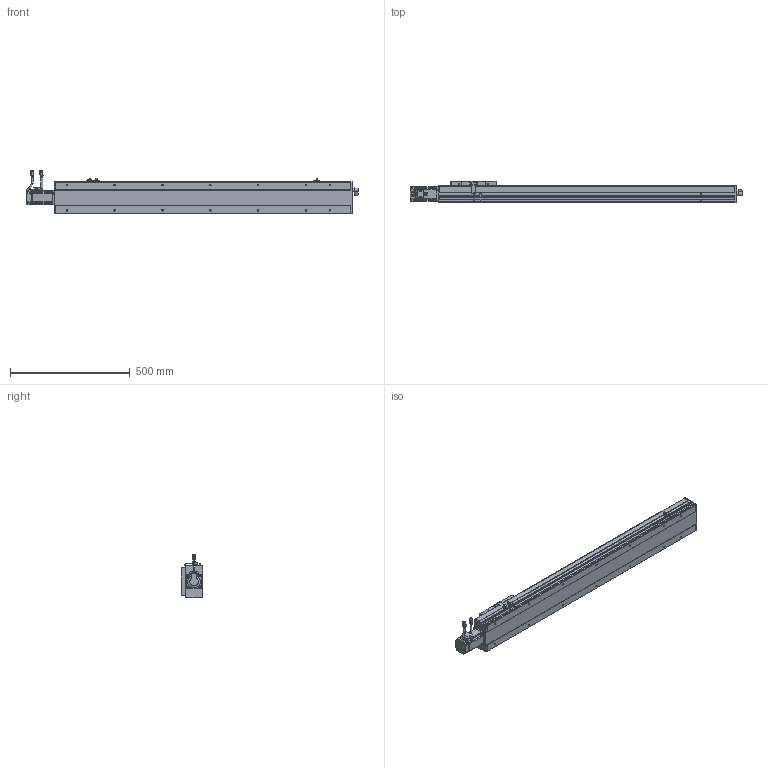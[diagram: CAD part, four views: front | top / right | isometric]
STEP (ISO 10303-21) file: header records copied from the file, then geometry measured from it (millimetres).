
FILE_DESCRIPTION(/* description */ ('STEP AP214'),/* implementation_level */ '2;1');
FILE_NAME(/* name */ 'PSC140-L05-S950-BC-P40-C1-N(0)',/* time_stamp */ '2022-06-13T03:16:13+02:00',/* author */ ('License CC BY-ND 4.0'),/* organization */ ('CADENAS'),/* preprocessor_version */ 'ST-DEVELOPER v18.102',/* originating_system */ 'PARTsolutions',/* authorisation */ ' ');
FILE_SCHEMA (('AUTOMOTIVE_DESIGN {1 0 10303 214 3 1 1}'));
Length unit declared in the file: millimetre
Products named in the file (10): PSC140-L05-S950-BC-P40-C1-N(0); P40-s2; P40-c2; P40-s1; P40-c1; P40-p1; PSC140-sensor; PSC140-BC-SLIDER; PSC140-S950-BC-P40-C1_BODY1; PSC140-L05-S950-BC-P40-C1-N(0)_dummy
Assembly tree (11 placements, depth 2):
  PSC140-L05-S950-BC-P40-C1-N(0)
    P40-s2
    P40-c2
    P40-s1
    P40-c1
    P40-p1
    PSC140-sensor  x3
    PSC140-BC-SLIDER
    PSC140-S950-BC-P40-C1_BODY1
    PSC140-L05-S950-BC-P40-C1-N(0)_dummy
Bounding box: 1389 x 91 x 182.48 mm (x, y, z)
Volume: 12557694.9 mm3; surface area: 717893.2 mm2
Topology: 10 solids, 10 shells, 1256 faces, 3230 edges, 2133 vertices
Faces by surface type: plane 868, cylinder 319, cone 50, torus 19
Full cylindrical faces by diameter (mm): 1 x8, 2.6 x10, 2.8 x3, 3.3 x8, 4.5 x12, 4.6 x3, 4.917 x18, 5 x4, 5.5 x8, 6 x10, 6.08 x4, 7 x10, 9 x2, 10 x1, 11 x1, 13.74 x1, 14 x1, 16.4 x2, 16.5 x1, 19.98 x1, 31.98 x1, 35.5 x1, 50 x2
Entity records: 34598 total; most frequent: CARTESIAN_POINT 6037, DIRECTION 5827, ORIENTED_EDGE 5594, EDGE_CURVE 2797, LINE 2109, VECTOR 2109, VERTEX_POINT 1954, AXIS2_PLACEMENT_3D 1859
